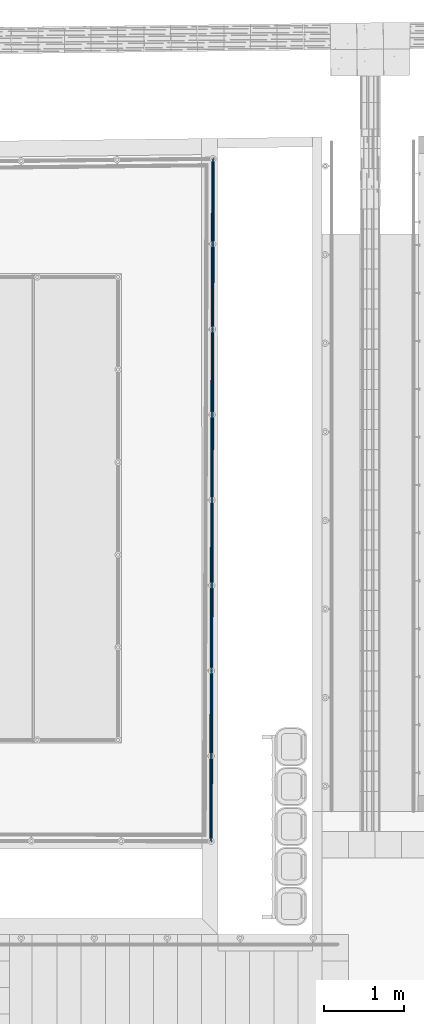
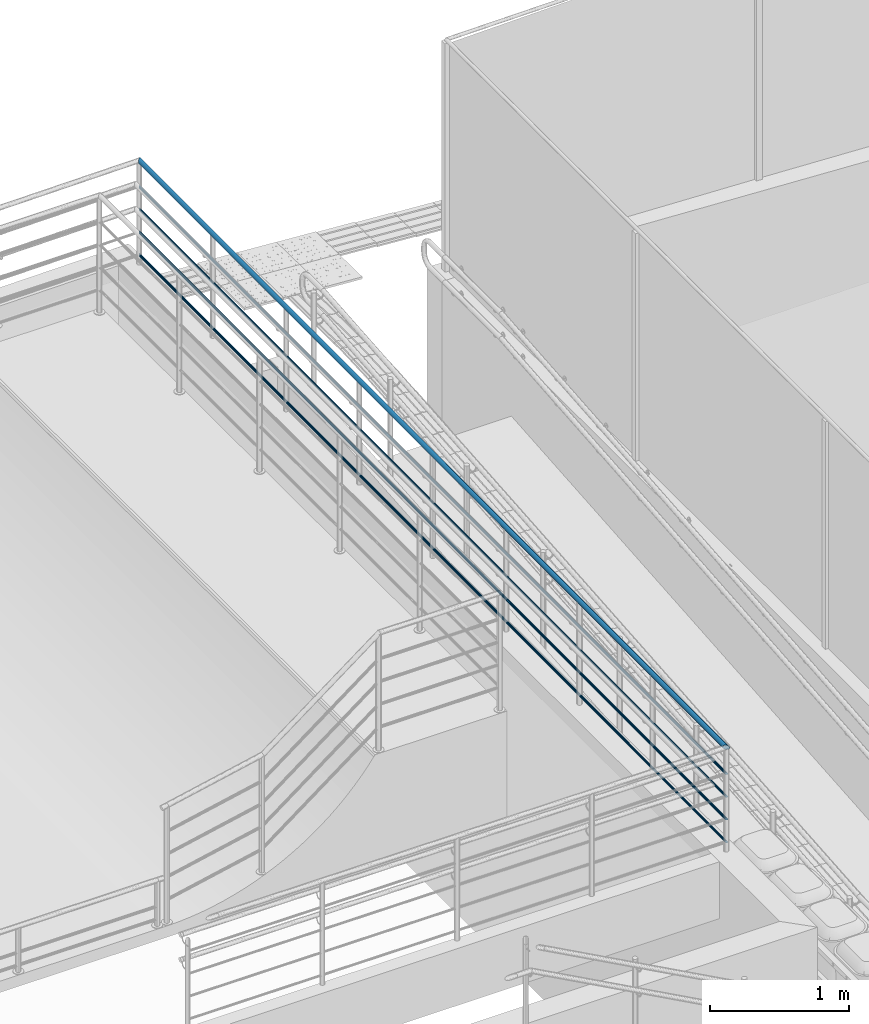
# One storey, part 48 of 237: 6 building element parts, 1 element without a shape of its own.
"""IFC2X3 building model written with IfcOpenShell, lengths in millimetres."""

from ifc_helpers import new_model, entity, si_unit, converted_unit, derived_unit, money_unit, direction, frame, origin_with_axes, place, context, subcontext, project, spatial, faceted_brep, material, type_object, element, aggregate, save


model = new_model("IFC2X3")

# Units and contexts
model_context = context("Model", 3, precision=0.01, world=origin_with_axes(), true_north=direction((0.0, 1.0)))
body_context = subcontext(model_context, "Body", "Model", "MODEL_VIEW")
ifc_project = project(units=[si_unit("LENGTHUNIT", "METRE", prefix="MILLI"), si_unit("AREAUNIT", "SQUARE_METRE"), si_unit("VOLUMEUNIT", "CUBIC_METRE"), converted_unit("PLANEANGLEUNIT", "DEGREE", entity("IfcPlaneAngleMeasure", 0.0174532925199), si_unit("PLANEANGLEUNIT", "RADIAN"), dimensions=[0, 0, 0, 0, 0, 0, 0]), money_unit("USD"), converted_unit("TIMEUNIT", "Year", entity("IfcTimeMeasure", 31556926.0), si_unit("TIMEUNIT", "SECOND"), dimensions=[0, 0, 1, 0, 0, 0, 0]), si_unit("MASSUNIT", "GRAM", prefix="KILO"), si_unit("THERMODYNAMICTEMPERATUREUNIT", "DEGREE_CELSIUS"), si_unit("LUMINOUSINTENSITYUNIT", "LUMEN"), si_unit("ENERGYUNIT", "JOULE", prefix="MEGA"), derived_unit("THERMALCONDUCTANCEUNIT", [(si_unit("POWERUNIT", "WATT"), 1), (si_unit("LENGTHUNIT", "METRE"), -1), (si_unit("THERMODYNAMICTEMPERATUREUNIT", "KELVIN"), -1)]), derived_unit("SPECIFICHEATCAPACITYUNIT", [(si_unit("ENERGYUNIT", "JOULE"), 1), (si_unit("MASSUNIT", "GRAM", prefix="KILO"), -1), (si_unit("THERMODYNAMICTEMPERATUREUNIT", "KELVIN"), -1)]), derived_unit("MASSDENSITYUNIT", [(si_unit("MASSUNIT", "GRAM", prefix="KILO"), 1), (si_unit("VOLUMEUNIT", "CUBIC_METRE"), -1)])], contexts=[model_context])

# Site, building, storey
site_placement = place(None, origin_with_axes())
site = spatial("IfcSite", under=ifc_project, at=site_placement, Name="Local", CompositionType="ELEMENT")
building_placement = place(site_placement, origin_with_axes())
building = spatial("IfcBuilding", under=site, at=building_placement, Name="Construção", CompositionType="ELEMENT")
storey_placement = place(building_placement, origin_with_axes())
storey = spatial("IfcBuildingStorey", under=building, at=storey_placement, Name="Pavimento Térreo", CompositionType="ELEMENT", Elevation=0.0)

# Railing, building element parts
railing_type = type_object("IfcRailingType", Name="Tipo de Guarda-Corpo", PredefinedType="NOTDEFINED")
railing_placement = place(storey_placement, frame((70326.6870103, 28675.2458388, -1357.10819655), z_axis=(0.0, 0.0, 1.0), x_axis=(1.0, 0.0, 0.0)))
railing = element("IfcRailing", 1, at=railing_placement, inside=storey, type_object=railing_type, Name="Guarda-Corpo - 004", PredefinedType="NOTDEFINED")
ifc_material = material(Name="Aço - Inoxidável")
building_element_part_1_placement = place(railing_placement, origin_with_axes())
building_element_part_1 = element("IfcBuildingElementPart", 2, at=building_element_part_1_placement, material=ifc_material, Name="Aço - Inoxidável", context=body_context, shape_type="Brep", body=[
    faceted_brep([(-4767.28313638, -1832.65373961, 1030.0), (-4766.9802013, -1832.95806863, 1033.47296355), (-4741.63408005, 6632.09059752, 1033.47296355), (-4741.9388461, 6631.78341977, 1030.0), (-4766.9802013, -1832.95806863, 1026.52703645), (-4766.0806006, -1833.86180881, 1023.15959713), (-4764.61166818, -1835.33750046, 1020.0), (-4762.61803682, -1837.34030544, 1017.14424781), (-4760.16028199, -1839.80936953, 1014.67911114), (-4757.31308134, -1842.66967148, 1012.67949192), (-4754.16294561, -1845.83430244, 1011.20614758), (-4750.80559008, -1849.20710671, 1010.30384494), (-4747.3430263, -1852.68560335, 1010.0), (-4743.88046252, -1856.16409998, 1010.30384494), (-4740.523107, -1859.53690425, 1011.20614758), (-4737.37297126, -1862.70153521, 1012.67949192), (-4734.52577061, -1865.56183716, 1014.67911114), (-4732.06801578, -1868.03090125, 1017.14424781), (-4730.07438442, -1870.03370623, 1020.0), (-4728.60545201, -1871.50939788, 1023.15959713), (-4727.7058513, -1872.41313806, 1026.52703645), (-4727.40291623, -1872.71746708, 1030.0), (-4727.7058513, -1872.41313806, 1033.47296355), (-4728.60545201, -1871.50939788, 1036.84040287), (-4730.07438442, -1870.03370623, 1040.0), (-4732.06801578, -1868.03090125, 1042.85575219), (-4734.52577061, -1865.56183716, 1045.32088886), (-4737.37297126, -1862.70153521, 1047.32050808), (-4740.523107, -1859.53690425, 1048.79385242), (-4743.88046252, -1856.16409998, 1049.69615506), (-4747.3430263, -1852.68560335, 1050.0), (-4750.80559008, -1849.20710671, 1049.69615506), (-4754.16294561, -1845.83430244, 1048.79385242), (-4757.31308134, -1842.66967148, 1047.32050808), (-4760.16028199, -1839.80936953, 1045.32088886), (-4762.61803682, -1837.34030544, 1042.85575219), (-4764.61166818, -1835.33750046, 1040.0), (-4766.0806006, -1833.86180881, 1036.84040287), (-4740.72904204, 6633.00279734, 1036.84040287), (-4739.25123121, 6634.4923025, 1040.0), (-4737.24555008, 6636.51385514, 1042.85575219), (-4734.77294027, 6639.0060314, 1045.32088886), (-4731.90853076, 6641.89310776, 1047.32050808), (-4728.7393552, 6645.08736188, 1048.79385242), (-4725.36170738, 6648.49173796, 1049.69615506), (-4721.87821542, 6652.00279575, 1050.0), (-4718.39472346, 6655.51385355, 1049.69615506), (-4715.01707564, 6658.91822963, 1048.79385242), (-4711.84790008, 6662.11248375, 1047.32050808), (-4708.98349058, 6664.99956011, 1045.32088886), (-4706.51088076, 6667.49173637, 1042.85575219), (-4704.50519964, 6669.51328901, 1040.0), (-4703.0273888, 6671.00279417, 1036.84040287), (-4702.1223508, 6671.91499399, 1033.47296355), (-4701.81758474, 6672.22217174, 1030.0), (-4702.1223508, 6671.91499399, 1026.52703645), (-4703.0273888, 6671.00279417, 1023.15959713), (-4704.50519964, 6669.51328901, 1020.0), (-4706.51088076, 6667.49173637, 1017.14424781), (-4708.98349058, 6664.99956011, 1014.67911114), (-4711.84790008, 6662.11248375, 1012.67949192), (-4715.01707564, 6658.91822963, 1011.20614758), (-4718.39472346, 6655.51385355, 1010.30384494), (-4721.87821542, 6652.00279575, 1010.0), (-4725.36170738, 6648.49173796, 1010.30384494), (-4728.7393552, 6645.08736188, 1011.20614758), (-4731.90853076, 6641.89310776, 1012.67949192), (-4734.77294027, 6639.0060314, 1014.67911114), (-4737.24555008, 6636.51385514, 1017.14424781), (-4739.25123121, 6634.4923025, 1020.0), (-4740.72904204, 6633.00279734, 1023.15959713), (-4741.63408005, 6632.09059752, 1026.52703645)], [[[0, 1, 2, 3]], [[0, 4, 5, 6, 7, 8, 9, 10, 11, 12, 13, 14, 15, 16, 17, 18, 19, 20, 21, 22, 23, 24, 25, 26, 27, 28, 29, 30, 31, 32, 33, 34, 35, 36, 37, 1]], [[1, 37, 38, 2]], [[3, 2, 38, 39, 40, 41, 42, 43, 44, 45, 46, 47, 48, 49, 50, 51, 52, 53, 54, 55, 56, 57, 58, 59, 60, 61, 62, 63, 64, 65, 66, 67, 68, 69, 70, 71]], [[4, 0, 3, 71]], [[5, 4, 71, 70]], [[6, 5, 70, 69]], [[7, 6, 69, 68]], [[8, 7, 68, 67]], [[9, 8, 67, 66]], [[10, 9, 66, 65]], [[11, 10, 65, 64]], [[12, 11, 64, 63]], [[13, 12, 63, 62]], [[14, 13, 62, 61]], [[15, 14, 61, 60]], [[16, 15, 60, 59]], [[17, 16, 59, 58]], [[18, 17, 58, 57]], [[19, 18, 57, 56]], [[20, 19, 56, 55]], [[21, 20, 55, 54]], [[22, 21, 54, 53]], [[23, 22, 53, 52]], [[24, 23, 52, 51]], [[25, 24, 51, 50]], [[26, 25, 50, 49]], [[27, 26, 49, 48]], [[28, 27, 48, 47]], [[29, 28, 47, 46]], [[30, 29, 46, 45]], [[31, 30, 45, 44]], [[32, 31, 44, 43]], [[33, 32, 43, 42]], [[34, 33, 42, 41]], [[35, 34, 41, 40]], [[36, 35, 40, 39]], [[37, 36, 39, 38]]]),
])
building_element_part_2_placement = place(railing_placement, origin_with_axes())
building_element_part_2 = element("IfcBuildingElementPart", 3, at=building_element_part_2_placement, material=ifc_material, Name="Aço - Inoxidável", context=body_context, shape_type="Brep", body=[
    faceted_brep([(-4757.31308134, -1842.66967148, 200.0), (-4757.1616138, -1842.82183599, 201.736481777), (-4731.75614774, 6642.04669664, 201.736481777), (-4731.90853076, 6641.89310776, 200.0), (-4757.1616138, -1842.82183599, 198.263518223), (-4756.71181345, -1843.27370608, 196.579798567), (-4755.97734724, -1844.0115519, 195.0), (-4754.98053156, -1845.01295439, 193.572123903), (-4753.75165415, -1846.24748644, 192.339555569), (-4752.32805382, -1847.67763741, 191.339745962), (-4750.75298595, -1849.25995289, 190.603073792), (-4749.07430819, -1850.94635503, 190.15192247), (-4747.3430263, -1852.68560335, 190.0), (-4745.61174441, -1854.42485166, 190.15192247), (-4743.93306665, -1856.1112538, 190.603073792), (-4742.35799878, -1857.69356928, 191.339745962), (-4740.93439846, -1859.12372025, 192.339555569), (-4739.70552104, -1860.3582523, 193.572123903), (-4738.70870536, -1861.35965479, 195.0), (-4737.97423915, -1862.09750061, 196.579798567), (-4737.5244388, -1862.5493707, 198.263518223), (-4737.37297126, -1862.70153521, 200.0), (-4737.5244388, -1862.5493707, 201.736481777), (-4737.97423915, -1862.09750061, 203.420201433), (-4738.70870536, -1861.35965479, 205.0), (-4739.70552104, -1860.3582523, 206.427876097), (-4740.93439846, -1859.12372025, 207.660444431), (-4742.35799878, -1857.69356928, 208.660254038), (-4743.93306665, -1856.1112538, 209.396926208), (-4745.61174441, -1854.42485166, 209.84807753), (-4747.3430263, -1852.68560335, 210.0), (-4749.07430819, -1850.94635503, 209.84807753), (-4750.75298595, -1849.25995289, 209.396926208), (-4752.32805382, -1847.67763741, 208.660254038), (-4753.75165415, -1846.24748644, 207.660444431), (-4754.98053156, -1845.01295439, 206.427876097), (-4755.97734724, -1844.0115519, 205.0), (-4756.71181345, -1843.27370608, 203.420201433), (-4731.30362873, 6642.50279655, 203.420201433), (-4730.56472332, 6643.24754913, 205.0), (-4729.56188275, 6644.25832545, 206.427876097), (-4728.32557785, 6645.50441357, 207.660444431), (-4726.89337309, 6646.94795176, 208.660254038), (-4725.30878531, 6648.54507882, 209.396926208), (-4723.6199614, 6650.24726686, 209.84807753), (-4721.87821542, 6652.00279575, 210.0), (-4720.13646944, 6653.75832465, 209.84807753), (-4718.44764553, 6655.46051269, 209.396926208), (-4716.86305775, 6657.05763975, 208.660254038), (-4715.430853, 6658.50117793, 207.660444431), (-4714.19454809, 6659.74726606, 206.427876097), (-4713.19170753, 6660.75804238, 205.0), (-4712.45280211, 6661.50279496, 203.420201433), (-4712.00028311, 6661.95889487, 201.736481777), (-4711.84790008, 6662.11248375, 200.0), (-4712.00028311, 6661.95889487, 198.263518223), (-4712.45280211, 6661.50279496, 196.579798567), (-4713.19170753, 6660.75804238, 195.0), (-4714.19454809, 6659.74726606, 193.572123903), (-4715.430853, 6658.50117793, 192.339555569), (-4716.86305775, 6657.05763975, 191.339745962), (-4718.44764553, 6655.46051269, 190.603073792), (-4720.13646944, 6653.75832465, 190.15192247), (-4721.87821542, 6652.00279575, 190.0), (-4723.6199614, 6650.24726686, 190.15192247), (-4725.30878531, 6648.54507882, 190.603073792), (-4726.89337309, 6646.94795176, 191.339745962), (-4728.32557785, 6645.50441357, 192.339555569), (-4729.56188275, 6644.25832545, 193.572123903), (-4730.56472332, 6643.24754913, 195.0), (-4731.30362873, 6642.50279655, 196.579798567), (-4731.75614774, 6642.04669664, 198.263518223)], [[[0, 1, 2, 3]], [[0, 4, 5, 6, 7, 8, 9, 10, 11, 12, 13, 14, 15, 16, 17, 18, 19, 20, 21, 22, 23, 24, 25, 26, 27, 28, 29, 30, 31, 32, 33, 34, 35, 36, 37, 1]], [[1, 37, 38, 2]], [[3, 2, 38, 39, 40, 41, 42, 43, 44, 45, 46, 47, 48, 49, 50, 51, 52, 53, 54, 55, 56, 57, 58, 59, 60, 61, 62, 63, 64, 65, 66, 67, 68, 69, 70, 71]], [[4, 0, 3, 71]], [[5, 4, 71, 70]], [[6, 5, 70, 69]], [[7, 6, 69, 68]], [[8, 7, 68, 67]], [[9, 8, 67, 66]], [[10, 9, 66, 65]], [[11, 10, 65, 64]], [[12, 11, 64, 63]], [[13, 12, 63, 62]], [[14, 13, 62, 61]], [[15, 14, 61, 60]], [[16, 15, 60, 59]], [[17, 16, 59, 58]], [[18, 17, 58, 57]], [[19, 18, 57, 56]], [[20, 19, 56, 55]], [[21, 20, 55, 54]], [[22, 21, 54, 53]], [[23, 22, 53, 52]], [[24, 23, 52, 51]], [[25, 24, 51, 50]], [[26, 25, 50, 49]], [[27, 26, 49, 48]], [[28, 27, 48, 47]], [[29, 28, 47, 46]], [[30, 29, 46, 45]], [[31, 30, 45, 44]], [[32, 31, 44, 43]], [[33, 32, 43, 42]], [[34, 33, 42, 41]], [[35, 34, 41, 40]], [[36, 35, 40, 39]], [[37, 36, 39, 38]]]),
])
building_element_part_3_placement = place(railing_placement, origin_with_axes())
building_element_part_3 = element("IfcBuildingElementPart", 4, at=building_element_part_3_placement, material=ifc_material, Name="Aço - Inoxidável", context=body_context, shape_type="Brep", body=[
    faceted_brep([(-4757.31308134, -1842.66967148, 400.0), (-4757.1616138, -1842.82183599, 401.736481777), (-4731.75614774, 6642.04669664, 401.736481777), (-4731.90853076, 6641.89310776, 400.0), (-4757.1616138, -1842.82183599, 398.263518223), (-4756.71181345, -1843.27370608, 396.579798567), (-4755.97734724, -1844.0115519, 395.0), (-4754.98053156, -1845.01295439, 393.572123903), (-4753.75165415, -1846.24748644, 392.339555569), (-4752.32805382, -1847.67763741, 391.339745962), (-4750.75298595, -1849.25995289, 390.603073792), (-4749.07430819, -1850.94635503, 390.15192247), (-4747.3430263, -1852.68560335, 390.0), (-4745.61174441, -1854.42485166, 390.15192247), (-4743.93306665, -1856.1112538, 390.603073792), (-4742.35799878, -1857.69356928, 391.339745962), (-4740.93439846, -1859.12372025, 392.339555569), (-4739.70552104, -1860.3582523, 393.572123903), (-4738.70870536, -1861.35965479, 395.0), (-4737.97423915, -1862.09750061, 396.579798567), (-4737.5244388, -1862.5493707, 398.263518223), (-4737.37297126, -1862.70153521, 400.0), (-4737.5244388, -1862.5493707, 401.736481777), (-4737.97423915, -1862.09750061, 403.420201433), (-4738.70870536, -1861.35965479, 405.0), (-4739.70552104, -1860.3582523, 406.427876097), (-4740.93439846, -1859.12372025, 407.660444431), (-4742.35799878, -1857.69356928, 408.660254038), (-4743.93306665, -1856.1112538, 409.396926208), (-4745.61174441, -1854.42485166, 409.84807753), (-4747.3430263, -1852.68560335, 410.0), (-4749.07430819, -1850.94635503, 409.84807753), (-4750.75298595, -1849.25995289, 409.396926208), (-4752.32805382, -1847.67763741, 408.660254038), (-4753.75165415, -1846.24748644, 407.660444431), (-4754.98053156, -1845.01295439, 406.427876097), (-4755.97734724, -1844.0115519, 405.0), (-4756.71181345, -1843.27370608, 403.420201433), (-4731.30362873, 6642.50279655, 403.420201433), (-4730.56472332, 6643.24754913, 405.0), (-4729.56188275, 6644.25832545, 406.427876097), (-4728.32557785, 6645.50441357, 407.660444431), (-4726.89337309, 6646.94795176, 408.660254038), (-4725.30878531, 6648.54507882, 409.396926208), (-4723.6199614, 6650.24726686, 409.84807753), (-4721.87821542, 6652.00279575, 410.0), (-4720.13646944, 6653.75832465, 409.84807753), (-4718.44764553, 6655.46051269, 409.396926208), (-4716.86305775, 6657.05763975, 408.660254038), (-4715.430853, 6658.50117793, 407.660444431), (-4714.19454809, 6659.74726606, 406.427876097), (-4713.19170753, 6660.75804238, 405.0), (-4712.45280211, 6661.50279496, 403.420201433), (-4712.00028311, 6661.95889487, 401.736481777), (-4711.84790008, 6662.11248375, 400.0), (-4712.00028311, 6661.95889487, 398.263518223), (-4712.45280211, 6661.50279496, 396.579798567), (-4713.19170753, 6660.75804238, 395.0), (-4714.19454809, 6659.74726606, 393.572123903), (-4715.430853, 6658.50117793, 392.339555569), (-4716.86305775, 6657.05763975, 391.339745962), (-4718.44764553, 6655.46051269, 390.603073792), (-4720.13646944, 6653.75832465, 390.15192247), (-4721.87821542, 6652.00279575, 390.0), (-4723.6199614, 6650.24726686, 390.15192247), (-4725.30878531, 6648.54507882, 390.603073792), (-4726.89337309, 6646.94795176, 391.339745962), (-4728.32557785, 6645.50441357, 392.339555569), (-4729.56188275, 6644.25832545, 393.572123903), (-4730.56472332, 6643.24754913, 395.0), (-4731.30362873, 6642.50279655, 396.579798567), (-4731.75614774, 6642.04669664, 398.263518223)], [[[0, 1, 2, 3]], [[0, 4, 5, 6, 7, 8, 9, 10, 11, 12, 13, 14, 15, 16, 17, 18, 19, 20, 21, 22, 23, 24, 25, 26, 27, 28, 29, 30, 31, 32, 33, 34, 35, 36, 37, 1]], [[1, 37, 38, 2]], [[3, 2, 38, 39, 40, 41, 42, 43, 44, 45, 46, 47, 48, 49, 50, 51, 52, 53, 54, 55, 56, 57, 58, 59, 60, 61, 62, 63, 64, 65, 66, 67, 68, 69, 70, 71]], [[4, 0, 3, 71]], [[5, 4, 71, 70]], [[6, 5, 70, 69]], [[7, 6, 69, 68]], [[8, 7, 68, 67]], [[9, 8, 67, 66]], [[10, 9, 66, 65]], [[11, 10, 65, 64]], [[12, 11, 64, 63]], [[13, 12, 63, 62]], [[14, 13, 62, 61]], [[15, 14, 61, 60]], [[16, 15, 60, 59]], [[17, 16, 59, 58]], [[18, 17, 58, 57]], [[19, 18, 57, 56]], [[20, 19, 56, 55]], [[21, 20, 55, 54]], [[22, 21, 54, 53]], [[23, 22, 53, 52]], [[24, 23, 52, 51]], [[25, 24, 51, 50]], [[26, 25, 50, 49]], [[27, 26, 49, 48]], [[28, 27, 48, 47]], [[29, 28, 47, 46]], [[30, 29, 46, 45]], [[31, 30, 45, 44]], [[32, 31, 44, 43]], [[33, 32, 43, 42]], [[34, 33, 42, 41]], [[35, 34, 41, 40]], [[36, 35, 40, 39]], [[37, 36, 39, 38]]]),
])
building_element_part_4_placement = place(railing_placement, origin_with_axes())
building_element_part_4 = element("IfcBuildingElementPart", 5, at=building_element_part_4_placement, material=ifc_material, Name="Aço - Inoxidável", context=body_context, shape_type="Brep", body=[
    faceted_brep([(-4757.31308134, -1842.66967148, 400.0), (-4757.1616138, -1842.82183599, 401.736481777), (-4731.75614774, 6642.04669664, 401.736481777), (-4731.90853076, 6641.89310776, 400.0), (-4757.1616138, -1842.82183599, 398.263518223), (-4756.71181345, -1843.27370608, 396.579798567), (-4755.97734724, -1844.0115519, 395.0), (-4754.98053156, -1845.01295439, 393.572123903), (-4753.75165415, -1846.24748644, 392.339555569), (-4752.32805382, -1847.67763741, 391.339745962), (-4750.75298595, -1849.25995289, 390.603073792), (-4749.07430819, -1850.94635503, 390.15192247), (-4747.3430263, -1852.68560335, 390.0), (-4745.61174441, -1854.42485166, 390.15192247), (-4743.93306665, -1856.1112538, 390.603073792), (-4742.35799878, -1857.69356928, 391.339745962), (-4740.93439846, -1859.12372025, 392.339555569), (-4739.70552104, -1860.3582523, 393.572123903), (-4738.70870536, -1861.35965479, 395.0), (-4737.97423915, -1862.09750061, 396.579798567), (-4737.5244388, -1862.5493707, 398.263518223), (-4737.37297126, -1862.70153521, 400.0), (-4737.5244388, -1862.5493707, 401.736481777), (-4737.97423915, -1862.09750061, 403.420201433), (-4738.70870536, -1861.35965479, 405.0), (-4739.70552104, -1860.3582523, 406.427876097), (-4740.93439846, -1859.12372025, 407.660444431), (-4742.35799878, -1857.69356928, 408.660254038), (-4743.93306665, -1856.1112538, 409.396926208), (-4745.61174441, -1854.42485166, 409.84807753), (-4747.3430263, -1852.68560335, 410.0), (-4749.07430819, -1850.94635503, 409.84807753), (-4750.75298595, -1849.25995289, 409.396926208), (-4752.32805382, -1847.67763741, 408.660254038), (-4753.75165415, -1846.24748644, 407.660444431), (-4754.98053156, -1845.01295439, 406.427876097), (-4755.97734724, -1844.0115519, 405.0), (-4756.71181345, -1843.27370608, 403.420201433), (-4731.30362873, 6642.50279655, 403.420201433), (-4730.56472332, 6643.24754913, 405.0), (-4729.56188275, 6644.25832545, 406.427876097), (-4728.32557785, 6645.50441357, 407.660444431), (-4726.89337309, 6646.94795176, 408.660254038), (-4725.30878531, 6648.54507882, 409.396926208), (-4723.6199614, 6650.24726686, 409.84807753), (-4721.87821542, 6652.00279575, 410.0), (-4720.13646944, 6653.75832465, 409.84807753), (-4718.44764553, 6655.46051269, 409.396926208), (-4716.86305775, 6657.05763975, 408.660254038), (-4715.430853, 6658.50117793, 407.660444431), (-4714.19454809, 6659.74726606, 406.427876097), (-4713.19170753, 6660.75804238, 405.0), (-4712.45280211, 6661.50279496, 403.420201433), (-4712.00028311, 6661.95889487, 401.736481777), (-4711.84790008, 6662.11248375, 400.0), (-4712.00028311, 6661.95889487, 398.263518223), (-4712.45280211, 6661.50279496, 396.579798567), (-4713.19170753, 6660.75804238, 395.0), (-4714.19454809, 6659.74726606, 393.572123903), (-4715.430853, 6658.50117793, 392.339555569), (-4716.86305775, 6657.05763975, 391.339745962), (-4718.44764553, 6655.46051269, 390.603073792), (-4720.13646944, 6653.75832465, 390.15192247), (-4721.87821542, 6652.00279575, 390.0), (-4723.6199614, 6650.24726686, 390.15192247), (-4725.30878531, 6648.54507882, 390.603073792), (-4726.89337309, 6646.94795176, 391.339745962), (-4728.32557785, 6645.50441357, 392.339555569), (-4729.56188275, 6644.25832545, 393.572123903), (-4730.56472332, 6643.24754913, 395.0), (-4731.30362873, 6642.50279655, 396.579798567), (-4731.75614774, 6642.04669664, 398.263518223)], [[[0, 1, 2, 3]], [[0, 4, 5, 6, 7, 8, 9, 10, 11, 12, 13, 14, 15, 16, 17, 18, 19, 20, 21, 22, 23, 24, 25, 26, 27, 28, 29, 30, 31, 32, 33, 34, 35, 36, 37, 1]], [[1, 37, 38, 2]], [[3, 2, 38, 39, 40, 41, 42, 43, 44, 45, 46, 47, 48, 49, 50, 51, 52, 53, 54, 55, 56, 57, 58, 59, 60, 61, 62, 63, 64, 65, 66, 67, 68, 69, 70, 71]], [[4, 0, 3, 71]], [[5, 4, 71, 70]], [[6, 5, 70, 69]], [[7, 6, 69, 68]], [[8, 7, 68, 67]], [[9, 8, 67, 66]], [[10, 9, 66, 65]], [[11, 10, 65, 64]], [[12, 11, 64, 63]], [[13, 12, 63, 62]], [[14, 13, 62, 61]], [[15, 14, 61, 60]], [[16, 15, 60, 59]], [[17, 16, 59, 58]], [[18, 17, 58, 57]], [[19, 18, 57, 56]], [[20, 19, 56, 55]], [[21, 20, 55, 54]], [[22, 21, 54, 53]], [[23, 22, 53, 52]], [[24, 23, 52, 51]], [[25, 24, 51, 50]], [[26, 25, 50, 49]], [[27, 26, 49, 48]], [[28, 27, 48, 47]], [[29, 28, 47, 46]], [[30, 29, 46, 45]], [[31, 30, 45, 44]], [[32, 31, 44, 43]], [[33, 32, 43, 42]], [[34, 33, 42, 41]], [[35, 34, 41, 40]], [[36, 35, 40, 39]], [[37, 36, 39, 38]]]),
])
building_element_part_5_placement = place(railing_placement, origin_with_axes())
building_element_part_5 = element("IfcBuildingElementPart", 6, at=building_element_part_5_placement, material=ifc_material, Name="Aço - Inoxidável", context=body_context, shape_type="Brep", body=[
    faceted_brep([(-4757.31308134, -1842.66967148, 600.0), (-4757.1616138, -1842.82183599, 601.736481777), (-4731.75614774, 6642.04669664, 601.736481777), (-4731.90853076, 6641.89310776, 600.0), (-4757.1616138, -1842.82183599, 598.263518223), (-4756.71181345, -1843.27370608, 596.579798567), (-4755.97734724, -1844.0115519, 595.0), (-4754.98053156, -1845.01295439, 593.572123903), (-4753.75165415, -1846.24748644, 592.339555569), (-4752.32805382, -1847.67763741, 591.339745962), (-4750.75298595, -1849.25995289, 590.603073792), (-4749.07430819, -1850.94635503, 590.15192247), (-4747.3430263, -1852.68560335, 590.0), (-4745.61174441, -1854.42485166, 590.15192247), (-4743.93306665, -1856.1112538, 590.603073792), (-4742.35799878, -1857.69356928, 591.339745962), (-4740.93439846, -1859.12372025, 592.339555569), (-4739.70552104, -1860.3582523, 593.572123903), (-4738.70870536, -1861.35965479, 595.0), (-4737.97423915, -1862.09750061, 596.579798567), (-4737.5244388, -1862.5493707, 598.263518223), (-4737.37297126, -1862.70153521, 600.0), (-4737.5244388, -1862.5493707, 601.736481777), (-4737.97423915, -1862.09750061, 603.420201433), (-4738.70870536, -1861.35965479, 605.0), (-4739.70552104, -1860.3582523, 606.427876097), (-4740.93439846, -1859.12372025, 607.660444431), (-4742.35799878, -1857.69356928, 608.660254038), (-4743.93306665, -1856.1112538, 609.396926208), (-4745.61174441, -1854.42485166, 609.84807753), (-4747.3430263, -1852.68560335, 610.0), (-4749.07430819, -1850.94635503, 609.84807753), (-4750.75298595, -1849.25995289, 609.396926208), (-4752.32805382, -1847.67763741, 608.660254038), (-4753.75165415, -1846.24748644, 607.660444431), (-4754.98053156, -1845.01295439, 606.427876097), (-4755.97734724, -1844.0115519, 605.0), (-4756.71181345, -1843.27370608, 603.420201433), (-4731.30362873, 6642.50279655, 603.420201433), (-4730.56472332, 6643.24754913, 605.0), (-4729.56188275, 6644.25832545, 606.427876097), (-4728.32557785, 6645.50441357, 607.660444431), (-4726.89337309, 6646.94795176, 608.660254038), (-4725.30878531, 6648.54507882, 609.396926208), (-4723.6199614, 6650.24726686, 609.84807753), (-4721.87821542, 6652.00279575, 610.0), (-4720.13646944, 6653.75832465, 609.84807753), (-4718.44764553, 6655.46051269, 609.396926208), (-4716.86305775, 6657.05763975, 608.660254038), (-4715.430853, 6658.50117793, 607.660444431), (-4714.19454809, 6659.74726606, 606.427876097), (-4713.19170753, 6660.75804238, 605.0), (-4712.45280211, 6661.50279496, 603.420201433), (-4712.00028311, 6661.95889487, 601.736481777), (-4711.84790008, 6662.11248375, 600.0), (-4712.00028311, 6661.95889487, 598.263518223), (-4712.45280211, 6661.50279496, 596.579798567), (-4713.19170753, 6660.75804238, 595.0), (-4714.19454809, 6659.74726606, 593.572123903), (-4715.430853, 6658.50117793, 592.339555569), (-4716.86305775, 6657.05763975, 591.339745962), (-4718.44764553, 6655.46051269, 590.603073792), (-4720.13646944, 6653.75832465, 590.15192247), (-4721.87821542, 6652.00279575, 590.0), (-4723.6199614, 6650.24726686, 590.15192247), (-4725.30878531, 6648.54507882, 590.603073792), (-4726.89337309, 6646.94795176, 591.339745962), (-4728.32557785, 6645.50441357, 592.339555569), (-4729.56188275, 6644.25832545, 593.572123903), (-4730.56472332, 6643.24754913, 595.0), (-4731.30362873, 6642.50279655, 596.579798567), (-4731.75614774, 6642.04669664, 598.263518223)], [[[0, 1, 2, 3]], [[0, 4, 5, 6, 7, 8, 9, 10, 11, 12, 13, 14, 15, 16, 17, 18, 19, 20, 21, 22, 23, 24, 25, 26, 27, 28, 29, 30, 31, 32, 33, 34, 35, 36, 37, 1]], [[1, 37, 38, 2]], [[3, 2, 38, 39, 40, 41, 42, 43, 44, 45, 46, 47, 48, 49, 50, 51, 52, 53, 54, 55, 56, 57, 58, 59, 60, 61, 62, 63, 64, 65, 66, 67, 68, 69, 70, 71]], [[4, 0, 3, 71]], [[5, 4, 71, 70]], [[6, 5, 70, 69]], [[7, 6, 69, 68]], [[8, 7, 68, 67]], [[9, 8, 67, 66]], [[10, 9, 66, 65]], [[11, 10, 65, 64]], [[12, 11, 64, 63]], [[13, 12, 63, 62]], [[14, 13, 62, 61]], [[15, 14, 61, 60]], [[16, 15, 60, 59]], [[17, 16, 59, 58]], [[18, 17, 58, 57]], [[19, 18, 57, 56]], [[20, 19, 56, 55]], [[21, 20, 55, 54]], [[22, 21, 54, 53]], [[23, 22, 53, 52]], [[24, 23, 52, 51]], [[25, 24, 51, 50]], [[26, 25, 50, 49]], [[27, 26, 49, 48]], [[28, 27, 48, 47]], [[29, 28, 47, 46]], [[30, 29, 46, 45]], [[31, 30, 45, 44]], [[32, 31, 44, 43]], [[33, 32, 43, 42]], [[34, 33, 42, 41]], [[35, 34, 41, 40]], [[36, 35, 40, 39]], [[37, 36, 39, 38]]]),
])
building_element_part_6_placement = place(railing_placement, origin_with_axes())
building_element_part_6 = element("IfcBuildingElementPart", 7, at=building_element_part_6_placement, material=ifc_material, Name="Aço - Inoxidável", context=body_context, shape_type="Brep", body=[
    faceted_brep([(-4757.31308134, -1842.66967148, 800.0), (-4757.1616138, -1842.82183599, 801.736481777), (-4731.75614774, 6642.04669664, 801.736481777), (-4731.90853076, 6641.89310776, 800.0), (-4757.1616138, -1842.82183599, 798.263518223), (-4756.71181345, -1843.27370608, 796.579798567), (-4755.97734724, -1844.0115519, 795.0), (-4754.98053156, -1845.01295439, 793.572123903), (-4753.75165415, -1846.24748644, 792.339555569), (-4752.32805382, -1847.67763741, 791.339745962), (-4750.75298595, -1849.25995289, 790.603073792), (-4749.07430819, -1850.94635503, 790.15192247), (-4747.3430263, -1852.68560335, 790.0), (-4745.61174441, -1854.42485166, 790.15192247), (-4743.93306665, -1856.1112538, 790.603073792), (-4742.35799878, -1857.69356928, 791.339745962), (-4740.93439846, -1859.12372025, 792.339555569), (-4739.70552104, -1860.3582523, 793.572123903), (-4738.70870536, -1861.35965479, 795.0), (-4737.97423915, -1862.09750061, 796.579798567), (-4737.5244388, -1862.5493707, 798.263518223), (-4737.37297126, -1862.70153521, 800.0), (-4737.5244388, -1862.5493707, 801.736481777), (-4737.97423915, -1862.09750061, 803.420201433), (-4738.70870536, -1861.35965479, 805.0), (-4739.70552104, -1860.3582523, 806.427876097), (-4740.93439846, -1859.12372025, 807.660444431), (-4742.35799878, -1857.69356928, 808.660254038), (-4743.93306665, -1856.1112538, 809.396926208), (-4745.61174441, -1854.42485166, 809.84807753), (-4747.3430263, -1852.68560335, 810.0), (-4749.07430819, -1850.94635503, 809.84807753), (-4750.75298595, -1849.25995289, 809.396926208), (-4752.32805382, -1847.67763741, 808.660254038), (-4753.75165415, -1846.24748644, 807.660444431), (-4754.98053156, -1845.01295439, 806.427876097), (-4755.97734724, -1844.0115519, 805.0), (-4756.71181345, -1843.27370608, 803.420201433), (-4731.30362873, 6642.50279655, 803.420201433), (-4730.56472332, 6643.24754913, 805.0), (-4729.56188275, 6644.25832545, 806.427876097), (-4728.32557785, 6645.50441357, 807.660444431), (-4726.89337309, 6646.94795176, 808.660254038), (-4725.30878531, 6648.54507882, 809.396926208), (-4723.6199614, 6650.24726686, 809.84807753), (-4721.87821542, 6652.00279575, 810.0), (-4720.13646944, 6653.75832465, 809.84807753), (-4718.44764553, 6655.46051269, 809.396926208), (-4716.86305775, 6657.05763975, 808.660254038), (-4715.430853, 6658.50117793, 807.660444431), (-4714.19454809, 6659.74726606, 806.427876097), (-4713.19170753, 6660.75804238, 805.0), (-4712.45280211, 6661.50279496, 803.420201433), (-4712.00028311, 6661.95889487, 801.736481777), (-4711.84790008, 6662.11248375, 800.0), (-4712.00028311, 6661.95889487, 798.263518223), (-4712.45280211, 6661.50279496, 796.579798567), (-4713.19170753, 6660.75804238, 795.0), (-4714.19454809, 6659.74726606, 793.572123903), (-4715.430853, 6658.50117793, 792.339555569), (-4716.86305775, 6657.05763975, 791.339745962), (-4718.44764553, 6655.46051269, 790.603073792), (-4720.13646944, 6653.75832465, 790.15192247), (-4721.87821542, 6652.00279575, 790.0), (-4723.6199614, 6650.24726686, 790.15192247), (-4725.30878531, 6648.54507882, 790.603073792), (-4726.89337309, 6646.94795176, 791.339745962), (-4728.32557785, 6645.50441357, 792.339555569), (-4729.56188275, 6644.25832545, 793.572123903), (-4730.56472332, 6643.24754913, 795.0), (-4731.30362873, 6642.50279655, 796.579798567), (-4731.75614774, 6642.04669664, 798.263518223)], [[[0, 1, 2, 3]], [[0, 4, 5, 6, 7, 8, 9, 10, 11, 12, 13, 14, 15, 16, 17, 18, 19, 20, 21, 22, 23, 24, 25, 26, 27, 28, 29, 30, 31, 32, 33, 34, 35, 36, 37, 1]], [[1, 37, 38, 2]], [[3, 2, 38, 39, 40, 41, 42, 43, 44, 45, 46, 47, 48, 49, 50, 51, 52, 53, 54, 55, 56, 57, 58, 59, 60, 61, 62, 63, 64, 65, 66, 67, 68, 69, 70, 71]], [[4, 0, 3, 71]], [[5, 4, 71, 70]], [[6, 5, 70, 69]], [[7, 6, 69, 68]], [[8, 7, 68, 67]], [[9, 8, 67, 66]], [[10, 9, 66, 65]], [[11, 10, 65, 64]], [[12, 11, 64, 63]], [[13, 12, 63, 62]], [[14, 13, 62, 61]], [[15, 14, 61, 60]], [[16, 15, 60, 59]], [[17, 16, 59, 58]], [[18, 17, 58, 57]], [[19, 18, 57, 56]], [[20, 19, 56, 55]], [[21, 20, 55, 54]], [[22, 21, 54, 53]], [[23, 22, 53, 52]], [[24, 23, 52, 51]], [[25, 24, 51, 50]], [[26, 25, 50, 49]], [[27, 26, 49, 48]], [[28, 27, 48, 47]], [[29, 28, 47, 46]], [[30, 29, 46, 45]], [[31, 30, 45, 44]], [[32, 31, 44, 43]], [[33, 32, 43, 42]], [[34, 33, 42, 41]], [[35, 34, 41, 40]], [[36, 35, 40, 39]], [[37, 36, 39, 38]]]),
])
aggregate(railing, [building_element_part_1, building_element_part_2, building_element_part_3, building_element_part_4, building_element_part_5, building_element_part_6])

save(model, "model.ifc")
